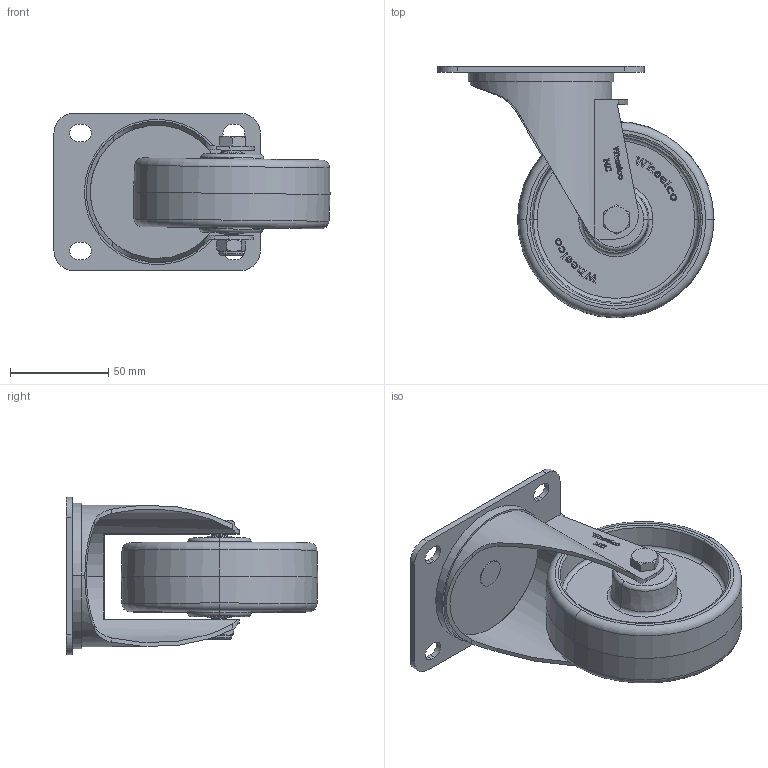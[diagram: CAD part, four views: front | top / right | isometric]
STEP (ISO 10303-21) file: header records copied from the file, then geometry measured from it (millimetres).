
FILE_DESCRIPTION (( 'STEP AP214' ), '1' );
FILE_NAME ('MCN100-P.step', '2023-11-29T20:24:13', ( '' ), ( '' ), 'SwSTEP 2.0', 'SolidWorks 2022', '' );
FILE_SCHEMA (( 'AUTOMOTIVE_DESIGN' ));
Length unit declared in the file: millimetre
Products named in the file (7): M8Nyloc; MCN100-P; MC100-P; SP12-8-41; MCN100; MC 105x80 Swivel Plate; M8x55
Assembly tree (6 placements, depth 2):
  MCN100-P
    M8Nyloc
    M8x55
    MC100-P
    MC 105x80 Swivel Plate
    SP12-8-41
    MCN100
Bounding box: 140.49 x 128 x 80 mm (x, y, z)
Volume: 197248.6 mm3; surface area: 86638.5 mm2
Topology: 6 solids, 6 shells, 652 faces, 1744 edges, 1149 vertices
Faces by surface type: plane 308, bspline 168, cylinder 116, cone 32, torus 26, sphere 2
Entity records: 36921 total; most frequent: CARTESIAN_POINT 19129, ORIENTED_EDGE 3488, DIRECTION 2423, EDGE_CURVE 1744, VERTEX_POINT 1149, LINE 1039, VECTOR 1039, EDGE_LOOP 715
